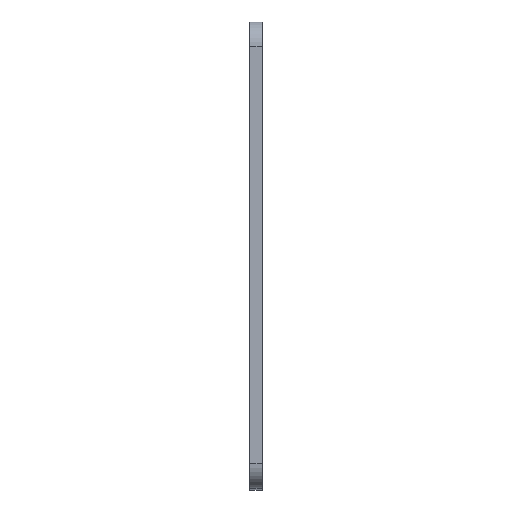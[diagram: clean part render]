
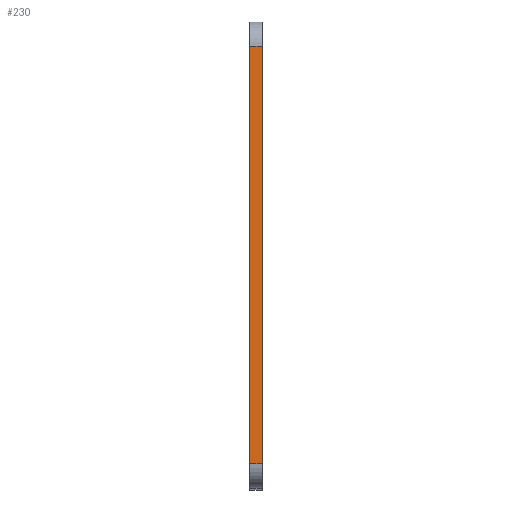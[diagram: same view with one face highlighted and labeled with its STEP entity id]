
A CAD part, left-side view. The second image highlights one B-rep face of the part: STEP entity #230.
In plain terms, the highlighted planar face has unit normal (-1, 0, 0.003).
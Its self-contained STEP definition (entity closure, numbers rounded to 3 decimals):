
#4 = ORIENTED_EDGE ( 'NONE', *, *, #313, .T. ) ;
#79 = VERTEX_POINT ( 'NONE', #582 ) ;
#123 = LINE ( 'NONE', #343, #375 ) ;
#144 = PLANE ( 'NONE',  #199 ) ;
#185 = VECTOR ( 'NONE', #448, 1000. ) ;
#199 = AXIS2_PLACEMENT_3D ( 'NONE', #435, #711, #311 ) ;
#207 = VERTEX_POINT ( 'NONE', #250 ) ;
#226 = VERTEX_POINT ( 'NONE', #307 ) ;
#230 = ADVANCED_FACE ( 'NONE', ( #702 ), #144, .F. ) ;
#250 = CARTESIAN_POINT ( 'NONE',  ( -126.421, 0., 144.531 ) ) ;
#307 = CARTESIAN_POINT ( 'NONE',  ( -126.846, 0., -25.469 ) ) ;
#308 = VERTEX_POINT ( 'NONE', #661 ) ;
#311 = DIRECTION ( 'NONE',  ( -0.003, 0., -1. ) ) ;
#313 = EDGE_CURVE ( 'NONE', #226, #207, #445, .T. ) ;
#336 = EDGE_CURVE ( 'NONE', #79, #308, #505, .T. ) ;
#343 = CARTESIAN_POINT ( 'NONE',  ( -126.421, 5., 144.531 ) ) ;
#372 = ORIENTED_EDGE ( 'NONE', *, *, #336, .F. ) ;
#375 = VECTOR ( 'NONE', #683, 1000. ) ;
#397 = EDGE_LOOP ( 'NONE', ( #4, #656, #372, #547 ) ) ;
#435 = CARTESIAN_POINT ( 'NONE',  ( -126.846, 5., -25.469 ) ) ;
#438 = EDGE_CURVE ( 'NONE', #79, #226, #573, .T. ) ;
#445 = LINE ( 'NONE', #728, #612 ) ;
#446 = EDGE_CURVE ( 'NONE', #308, #207, #123, .T. ) ;
#448 = DIRECTION ( 'NONE',  ( 0.003, 0., 1. ) ) ;
#505 = LINE ( 'NONE', #610, #185 ) ;
#547 = ORIENTED_EDGE ( 'NONE', *, *, #438, .T. ) ;
#573 = LINE ( 'NONE', #680, #726 ) ;
#576 = DIRECTION ( 'NONE',  ( 0., -1., 0. ) ) ;
#582 = CARTESIAN_POINT ( 'NONE',  ( -126.846, 5., -25.469 ) ) ;
#610 = CARTESIAN_POINT ( 'NONE',  ( -126.846, 5., -25.469 ) ) ;
#612 = VECTOR ( 'NONE', #719, 1000. ) ;
#656 = ORIENTED_EDGE ( 'NONE', *, *, #446, .F. ) ;
#661 = CARTESIAN_POINT ( 'NONE',  ( -126.421, 5., 144.531 ) ) ;
#680 = CARTESIAN_POINT ( 'NONE',  ( -126.846, 5., -25.469 ) ) ;
#683 = DIRECTION ( 'NONE',  ( 0., -1., 0. ) ) ;
#702 = FACE_OUTER_BOUND ( 'NONE', #397, .T. ) ;
#711 = DIRECTION ( 'NONE',  ( 1., 0., -0.003 ) ) ;
#719 = DIRECTION ( 'NONE',  ( 0.003, 0., 1. ) ) ;
#726 = VECTOR ( 'NONE', #576, 1000. ) ;
#728 = CARTESIAN_POINT ( 'NONE',  ( -126.846, 0., -25.469 ) ) ;
